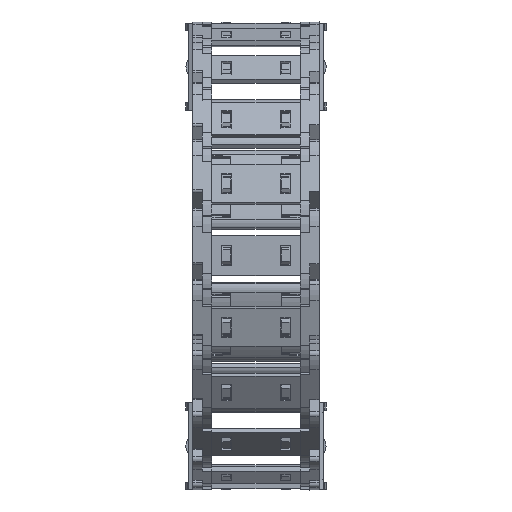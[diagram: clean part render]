
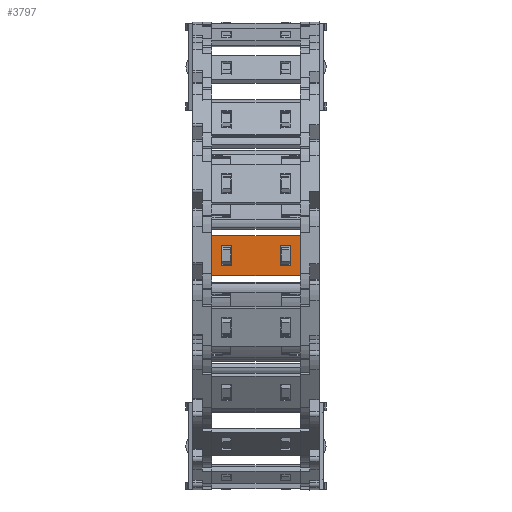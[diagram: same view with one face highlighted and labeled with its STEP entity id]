
A CAD part, top view. The second image highlights one B-rep face of the part: STEP entity #3797.
In plain terms, the highlighted planar face has unit normal (0, 0, 1) as drawn and (0, 1, 0) by its records, which use the part's own axes.
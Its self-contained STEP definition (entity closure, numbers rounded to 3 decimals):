
#2923=DIRECTION('',(0.,0.,1.));
#2924=VECTOR('',#2923,15.8);
#2925=CARTESIAN_POINT('',(20.24,1.5,-7.9));
#2926=LINE('',#2925,#2924);
#2930=DIRECTION('',(-1.,0.,0.));
#2931=VECTOR('',#2930,35.);
#2932=CARTESIAN_POINT('',(20.24,1.5,7.9));
#2933=LINE('',#2932,#2931);
#2937=DIRECTION('',(0.,0.,-1.));
#2938=VECTOR('',#2937,15.8);
#2939=CARTESIAN_POINT('',(-14.76,1.5,7.9));
#2940=LINE('',#2939,#2938);
#2944=DIRECTION('',(1.,0.,0.));
#2945=VECTOR('',#2944,3.648);
#2946=CARTESIAN_POINT('',(12.622,1.5,4.075));
#2947=LINE('',#2946,#2945);
#2951=DIRECTION('',(0.,0.,-1.));
#2952=VECTOR('',#2951,8.15);
#2953=CARTESIAN_POINT('',(16.27,1.5,4.075));
#2954=LINE('',#2953,#2952);
#2958=DIRECTION('',(-1.,0.,0.));
#2959=VECTOR('',#2958,3.648);
#2960=CARTESIAN_POINT('',(16.27,1.5,-4.075));
#2961=LINE('',#2960,#2959);
#2965=DIRECTION('',(0.,0.,-1.));
#2966=VECTOR('',#2965,8.15);
#2967=CARTESIAN_POINT('',(-7.142,1.5,4.075));
#2968=LINE('',#2967,#2966);
#2972=DIRECTION('',(-1.,0.,0.));
#2973=VECTOR('',#2972,3.648);
#2974=CARTESIAN_POINT('',(-7.142,1.5,-4.075));
#2975=LINE('',#2974,#2973);
#2979=DIRECTION('',(0.,0.,1.));
#2980=VECTOR('',#2979,8.15);
#2981=CARTESIAN_POINT('',(-10.79,1.5,-4.075));
#2982=LINE('',#2981,#2980);
#2986=DIRECTION('',(1.,0.,0.));
#2987=VECTOR('',#2986,3.648);
#2988=CARTESIAN_POINT('',(-10.79,1.5,4.075));
#2989=LINE('',#2988,#2987);
#3000=DIRECTION('',(-1.,0.,0.));
#3001=VECTOR('',#3000,35.);
#3002=CARTESIAN_POINT('',(20.24,1.5,-7.9));
#3003=LINE('',#3002,#3001);
#3208=DIRECTION('',(0.,0.,-1.));
#3209=VECTOR('',#3208,8.15);
#3210=CARTESIAN_POINT('',(12.622,1.5,4.075));
#3211=LINE('',#3210,#3209);
#3507=CARTESIAN_POINT('',(16.27,1.5,4.075));
#3508=VERTEX_POINT('',#3507);
#3509=CARTESIAN_POINT('',(12.622,1.5,4.075));
#3510=VERTEX_POINT('',#3509);
#3551=CARTESIAN_POINT('',(12.622,1.5,-4.075));
#3552=VERTEX_POINT('',#3551);
#3553=CARTESIAN_POINT('',(16.27,1.5,-4.075));
#3554=VERTEX_POINT('',#3553);
#3555=CARTESIAN_POINT('',(20.24,1.5,7.9));
#3557=VERTEX_POINT('',#3555);
#3559=CARTESIAN_POINT('',(20.24,1.5,-7.9));
#3560=VERTEX_POINT('',#3559);
#3583=CARTESIAN_POINT('',(-7.142,1.5,4.075));
#3584=CARTESIAN_POINT('',(-7.142,1.5,-4.075));
#3585=VERTEX_POINT('',#3583);
#3586=VERTEX_POINT('',#3584);
#3587=CARTESIAN_POINT('',(-10.79,1.5,-4.075));
#3588=VERTEX_POINT('',#3587);
#3589=CARTESIAN_POINT('',(-10.79,1.5,4.075));
#3590=VERTEX_POINT('',#3589);
#3591=CARTESIAN_POINT('',(-14.76,1.5,7.9));
#3592=VERTEX_POINT('',#3591);
#3595=CARTESIAN_POINT('',(-14.76,1.5,-7.9));
#3596=VERTEX_POINT('',#3595);
#3766=CARTESIAN_POINT('',(51.98,1.5,10.061));
#3767=DIRECTION('',(0.,-1.,0.));
#3768=DIRECTION('',(0.,0.,-1.));
#3769=AXIS2_PLACEMENT_3D('',#3766,#3767,#3768);
#3770=PLANE('',#3769);
#3771=ORIENTED_EDGE('',*,*,#3669,.T.);
#3772=ORIENTED_EDGE('',*,*,#3707,.T.);
#3773=ORIENTED_EDGE('',*,*,#3732,.T.);
#3775=ORIENTED_EDGE('',*,*,#3774,.F.);
#3776=EDGE_LOOP('',(#3771,#3772,#3773,#3775));
#3777=FACE_OUTER_BOUND('',#3776,.F.);
#3779=ORIENTED_EDGE('',*,*,#3778,.F.);
#3780=ORIENTED_EDGE('',*,*,#3608,.T.);
#3782=ORIENTED_EDGE('',*,*,#3781,.T.);
#3784=ORIENTED_EDGE('',*,*,#3783,.T.);
#3785=EDGE_LOOP('',(#3779,#3780,#3782,#3784));
#3786=FACE_BOUND('',#3785,.F.);
#3788=ORIENTED_EDGE('',*,*,#3787,.T.);
#3790=ORIENTED_EDGE('',*,*,#3789,.T.);
#3792=ORIENTED_EDGE('',*,*,#3791,.T.);
#3794=ORIENTED_EDGE('',*,*,#3793,.T.);
#3795=EDGE_LOOP('',(#3788,#3790,#3792,#3794));
#3796=FACE_BOUND('',#3795,.F.);
#3797=ADVANCED_FACE('',(#3777,#3786,#3796),#3770,.F.);
#3608=EDGE_CURVE('',#3510,#3508,#2947,.T.);
#3669=EDGE_CURVE('',#3560,#3557,#2926,.T.);
#3707=EDGE_CURVE('',#3557,#3592,#2933,.T.);
#3732=EDGE_CURVE('',#3592,#3596,#2940,.T.);
#3774=EDGE_CURVE('',#3560,#3596,#3003,.T.);
#3778=EDGE_CURVE('',#3510,#3552,#3211,.T.);
#3781=EDGE_CURVE('',#3508,#3554,#2954,.T.);
#3783=EDGE_CURVE('',#3554,#3552,#2961,.T.);
#3787=EDGE_CURVE('',#3585,#3586,#2968,.T.);
#3789=EDGE_CURVE('',#3586,#3588,#2975,.T.);
#3791=EDGE_CURVE('',#3588,#3590,#2982,.T.);
#3793=EDGE_CURVE('',#3590,#3585,#2989,.T.);
